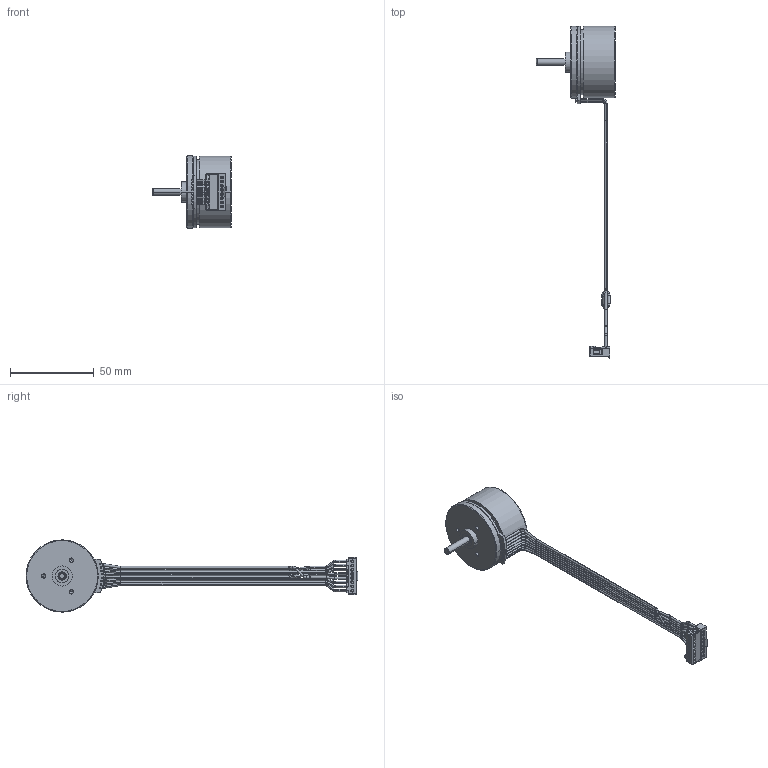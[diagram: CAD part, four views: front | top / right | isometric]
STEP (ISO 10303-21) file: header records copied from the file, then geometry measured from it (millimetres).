
FILE_DESCRIPTION((''),'2;1');
FILE_NAME('411812','2018-03-14T',('mmagpetk'),(''),'CREO PARAMETRIC BY PTC INC, 2016050','CREO PARAMETRIC BY PTC INC, 2016050','');
FILE_SCHEMA(('CONFIG_CONTROL_DESIGN'));
Length unit declared in the file: millimetre
Products named in the file (1): 411812
Bounding box: 47.5 x 198.5 x 43.2 mm (x, y, z)
Volume: 41747.5 mm3; surface area: 15511.1 mm2
Topology: 2 solids, 2 shells, 692 faces, 1819 edges, 1143 vertices
Faces by surface type: plane 306, cylinder 264, torus 94, cone 28
Entity records: 30488 total; most frequent: CARTESIAN_POINT 4782, DIRECTION 3727, ORIENTED_EDGE 3626, PRESENTATION_STYLE_ASSIGNMENT 2183, STYLED_ITEM 1815, CURVE_STYLE 1813, EDGE_CURVE 1813, AXIS2_PLACEMENT_3D 1346
